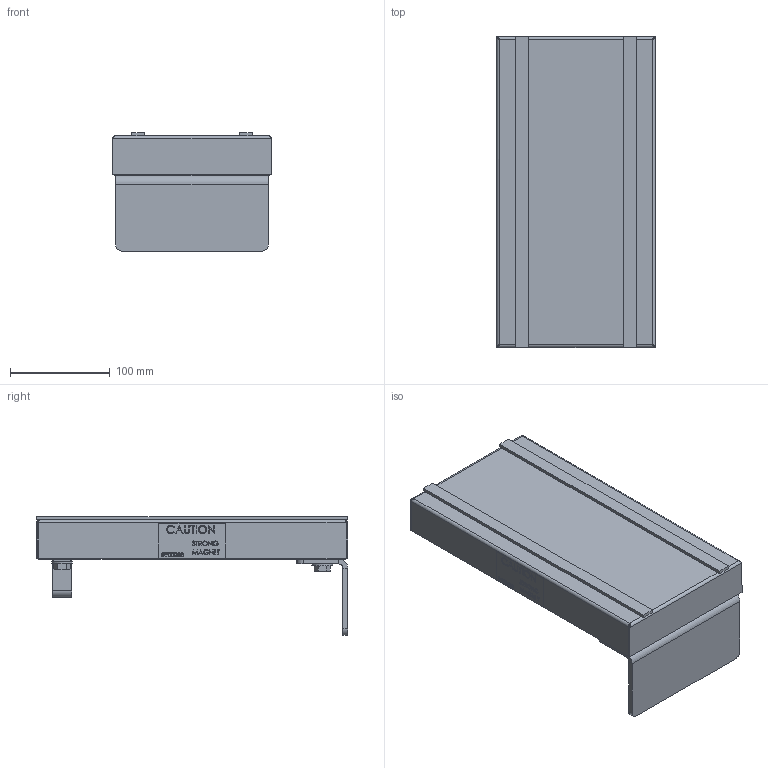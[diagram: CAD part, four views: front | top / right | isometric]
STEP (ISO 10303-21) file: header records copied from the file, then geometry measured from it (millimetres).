
FILE_DESCRIPTION (( 'STEP AP203' ), '1' );
FILE_NAME ('TNF12.STEP', '2018-08-24T12:26:02', ( '' ), ( '' ), 'SwSTEP 2.0', 'SolidWorks 2015', '' );
FILE_SCHEMA (( 'CONFIG_CONTROL_DESIGN' ));
Length unit declared in the file: inch
Products named in the file (1): TNF12
Bounding box: 159.26 x 311.4 x 118.75 mm (x, y, z)
Volume: 2017790 mm3; surface area: 495872.6 mm2
Topology: 20 solids, 20 shells, 1701 faces, 4229 edges, 2710 vertices
Faces by surface type: plane 914, bspline 427, cylinder 176, cone 176, torus 8
Entity records: 77100 total; most frequent: CARTESIAN_POINT 39386, ORIENTED_EDGE 8458, DIRECTION 6273, EDGE_CURVE 4229, VECTOR 2811, LINE 2811, VERTEX_POINT 2710, EDGE_LOOP 1875
